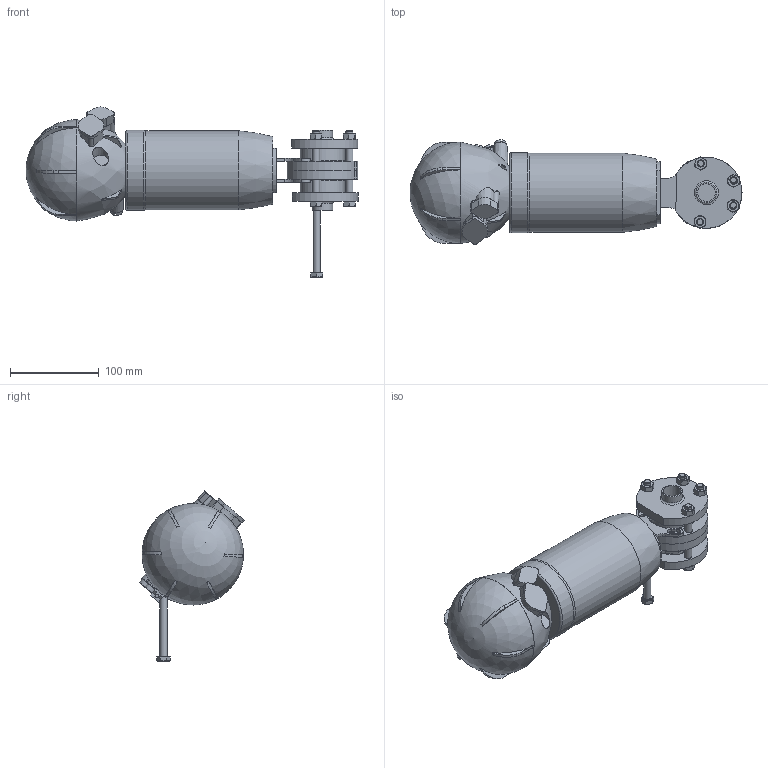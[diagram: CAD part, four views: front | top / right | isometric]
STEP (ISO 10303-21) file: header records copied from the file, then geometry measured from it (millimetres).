
FILE_DESCRIPTION(/* description */ ('ZVF V.FARF.DN20(23X1.5) WAF4 MACH83 SENC 316 EPDM'),/* implementation_level */ '2;1');
FILE_NAME(/* name */ 'C:\_DED_PWS\GIOR-G\DB\B\EAA\BEAAC6020BEBA-00^SAGOMA.step',/* time_stamp */ '2026-01-23T09:22:52+01:00',/* author */ (''),/* organization */ (''),/* preprocessor_version */ 'ST-DEVELOPER v20',/* originating_system */ 'Autodesk Inventor 2022',/* authorisation */ '');
FILE_SCHEMA (('CONFIG_CONTROL_DESIGN'));
Length unit declared in the file: millimetre
Products named in the file (8): BEAAC6020BEBA; MEZZO-COR-DN025-WAFER-4; FLANGIA-DN20-23X1.5-WAFER-4; UNI 5588 - M8; MACH83; Supporto-farf-DN25-65-; UNI 5739 - M8 x 80; 3DAAJGIOAA007
Assembly tree (16 placements, depth 2):
  BEAAC6020BEBA
    FLANGIA-DN20-23X1.5-WAFER-4  x2
    MEZZO-COR-DN025-WAFER-4  x2
    UNI 5588 - M8  x4
    UNI 5739 - M8 x 80  x5
    MACH83
    Supporto-farf-DN25-65-
    3DAAJGIOAA007
Bounding box: 373.46 x 117.86 x 191.25 mm (x, y, z)
Volume: 2141198.5 mm3; surface area: 199543 mm2
Topology: 16 solids, 16 shells, 1022 faces, 2674 edges, 1748 vertices
Faces by surface type: plane 724, cone 120, cylinder 112, bspline 53, torus 12, sphere 1
Full cylindrical faces by diameter (mm): 4 x1, 6.2 x8, 6.647 x4, 7 x4, 8 x5, 8.5 x12, 11.63 x5, 13 x4, 18 x1, 20 x2, 23 x2, 26 x1, 50 x2, 89 x1, 90 x1
Entity records: 30201 total; most frequent: CARTESIAN_POINT 7166, DIRECTION 4888, ORIENTED_EDGE 4600, EDGE_CURVE 2300, AXIS2_PLACEMENT_3D 2033, VERTEX_POINT 1521, EDGE_LOOP 941, FACE_OUTER_BOUND 848
